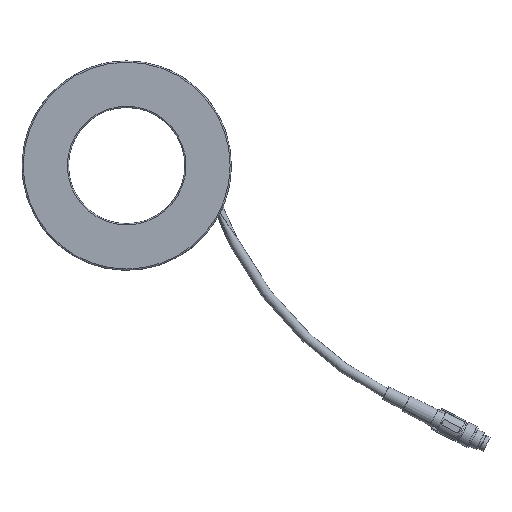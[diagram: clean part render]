
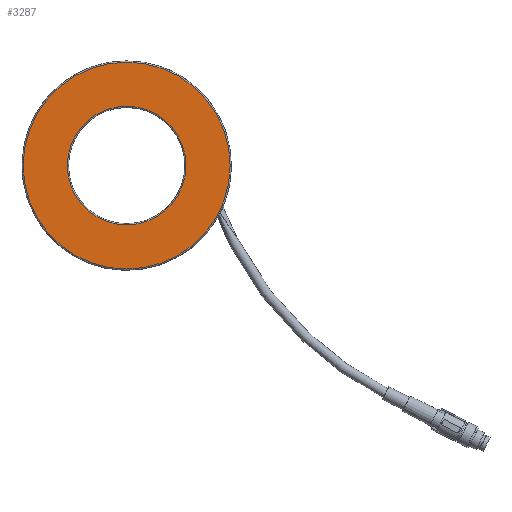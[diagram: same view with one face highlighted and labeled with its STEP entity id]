
A CAD part, top view. The second image highlights one B-rep face of the part: STEP entity #3287.
In plain terms, the highlighted planar face has unit normal (0, 0, 1).
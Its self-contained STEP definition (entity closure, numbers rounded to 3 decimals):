
#96=CIRCLE('',#3453,44.5);
#97=CIRCLE('',#3455,25.5);
#307=ORIENTED_EDGE('',*,*,#922,.T.);
#308=ORIENTED_EDGE('',*,*,#923,.T.);
#922=EDGE_CURVE('',#1229,#1229,#96,.F.);
#923=EDGE_CURVE('',#1230,#1230,#97,.T.);
#1229=VERTEX_POINT('',#4476);
#1230=VERTEX_POINT('',#4479);
#1697=EDGE_LOOP('',(#307));
#1698=EDGE_LOOP('',(#308));
#1918=FACE_BOUND('',#1697,.T.);
#1919=FACE_BOUND('',#1698,.T.);
#2131=PLANE('',#3454);
#3287=ADVANCED_FACE('',(#1918,#1919),#2131,.F.);
#3453=AXIS2_PLACEMENT_3D('',#4475,#3771,#3772);
#3454=AXIS2_PLACEMENT_3D('',#4477,#3773,#3774);
#3455=AXIS2_PLACEMENT_3D('',#4478,#3775,#3776);
#3771=DIRECTION('',(0.,0.,-1.));
#3772=DIRECTION('',(-1.,0.,0.));
#3773=DIRECTION('',(0.,0.,-1.));
#3774=DIRECTION('',(-1.,0.,0.));
#3775=DIRECTION('',(0.,0.,-1.));
#3776=DIRECTION('',(-1.,0.,0.));
#4475=CARTESIAN_POINT('',(0.,0.,12.));
#4476=CARTESIAN_POINT('',(-44.5,0.,12.));
#4477=CARTESIAN_POINT('',(0.,0.,12.));
#4478=CARTESIAN_POINT('',(0.,0.,12.));
#4479=CARTESIAN_POINT('',(-25.5,0.,12.));
